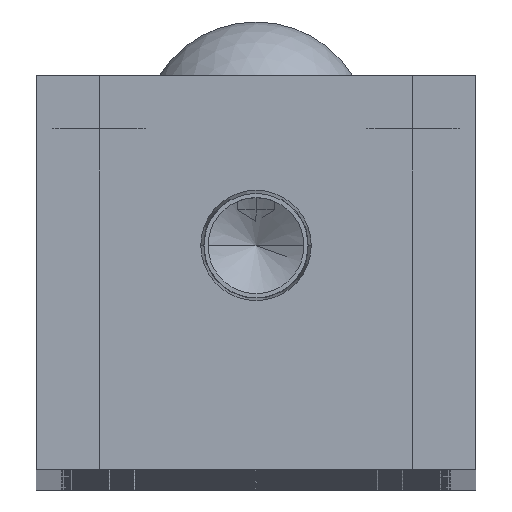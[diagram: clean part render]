
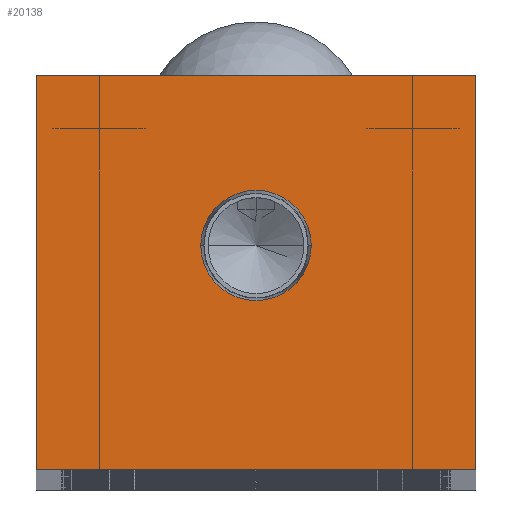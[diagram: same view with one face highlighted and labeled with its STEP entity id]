
A CAD part, top view. The second image highlights one B-rep face of the part: STEP entity #20138.
In plain terms, the highlighted planar face has unit normal (0, 0, 1).
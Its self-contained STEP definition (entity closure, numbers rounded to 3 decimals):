
#310 = CIRCLE ( 'NONE', #12504, 6.154 ) ;
#1810 = CARTESIAN_POINT ( 'NONE',  ( 0., 0., 0. ) ) ;
#1902 = CARTESIAN_POINT ( 'NONE',  ( 6.154, 25., 0. ) ) ;
#2592 = VERTEX_POINT ( 'NONE', #16912 ) ;
#2742 = CARTESIAN_POINT ( 'NONE',  ( 0., 25., 0. ) ) ;
#3303 = LINE ( 'NONE', #18647, #29184 ) ;
#4236 = ORIENTED_EDGE ( 'NONE', *, *, #6042, .F. ) ;
#5312 = DIRECTION ( 'NONE',  ( 1., 0., 0. ) ) ;
#5767 = DIRECTION ( 'NONE',  ( -1., 0., 0. ) ) ;
#6042 = EDGE_CURVE ( 'NONE', #24695, #31736, #28663, .T. ) ;
#6740 = VECTOR ( 'NONE', #5767, 1000. ) ;
#6971 = DIRECTION ( 'NONE',  ( -1., 0., 0. ) ) ;
#8248 = DIRECTION ( 'NONE',  ( 0., -1., 0. ) ) ;
#8429 = DIRECTION ( 'NONE',  ( 1., 0., 0. ) ) ;
#8470 = AXIS2_PLACEMENT_3D ( 'NONE', #2742, #20834, #5312 ) ;
#8788 = CARTESIAN_POINT ( 'NONE',  ( -6.154, 25., 0. ) ) ;
#9705 = EDGE_CURVE ( 'NONE', #31736, #24695, #310, .T. ) ;
#10037 = VECTOR ( 'NONE', #19769, 1000. ) ;
#11984 = LINE ( 'NONE', #29076, #6740 ) ;
#12504 = AXIS2_PLACEMENT_3D ( 'NONE', #30778, #15309, #33397 ) ;
#12615 = ORIENTED_EDGE ( 'NONE', *, *, #17512, .T. ) ;
#13462 = CARTESIAN_POINT ( 'NONE',  ( -24.5, 0., 0. ) ) ;
#14032 = FACE_OUTER_BOUND ( 'NONE', #24639, .T. ) ;
#14512 = ORIENTED_EDGE ( 'NONE', *, *, #28724, .T. ) ;
#14898 = ORIENTED_EDGE ( 'NONE', *, *, #18808, .T. ) ;
#15309 = DIRECTION ( 'NONE',  ( 0., 0., 1. ) ) ;
#16912 = CARTESIAN_POINT ( 'NONE',  ( 24.5, 44., 0. ) ) ;
#17307 = PLANE ( 'NONE',  #28573 ) ;
#17512 = EDGE_CURVE ( 'NONE', #28802, #30622, #31170, .T. ) ;
#17698 = CARTESIAN_POINT ( 'NONE',  ( -24.5, 0., 0. ) ) ;
#18134 = ORIENTED_EDGE ( 'NONE', *, *, #19850, .T. ) ;
#18591 = LINE ( 'NONE', #24862, #10037 ) ;
#18647 = CARTESIAN_POINT ( 'NONE',  ( 24.5, 0., 0. ) ) ;
#18794 = VERTEX_POINT ( 'NONE', #32615 ) ;
#18808 = EDGE_CURVE ( 'NONE', #18794, #2592, #18591, .T. ) ;
#19769 = DIRECTION ( 'NONE',  ( 0., 1., 0. ) ) ;
#19850 = EDGE_CURVE ( 'NONE', #2592, #28802, #11984, .T. ) ;
#20138 = ADVANCED_FACE ( 'NONE', ( #31402, #14032 ), #17307, .F. ) ;
#20834 = DIRECTION ( 'NONE',  ( 0., 0., 1. ) ) ;
#21587 = ORIENTED_EDGE ( 'NONE', *, *, #9705, .F. ) ;
#22534 = DIRECTION ( 'NONE',  ( 0., 0., -1. ) ) ;
#23478 = EDGE_LOOP ( 'NONE', ( #21587, #4236 ) ) ;
#24639 = EDGE_LOOP ( 'NONE', ( #12615, #14512, #14898, #18134 ) ) ;
#24695 = VERTEX_POINT ( 'NONE', #8788 ) ;
#24862 = CARTESIAN_POINT ( 'NONE',  ( 24.5, 44., 0. ) ) ;
#25162 = VECTOR ( 'NONE', #8248, 1000. ) ;
#28573 = AXIS2_PLACEMENT_3D ( 'NONE', #1810, #22534, #6971 ) ;
#28663 = CIRCLE ( 'NONE', #8470, 6.154 ) ;
#28724 = EDGE_CURVE ( 'NONE', #30622, #18794, #3303, .T. ) ;
#28802 = VERTEX_POINT ( 'NONE', #29369 ) ;
#29076 = CARTESIAN_POINT ( 'NONE',  ( -24.5, 44., 0. ) ) ;
#29184 = VECTOR ( 'NONE', #8429, 1000. ) ;
#29369 = CARTESIAN_POINT ( 'NONE',  ( -24.5, 44., 0. ) ) ;
#30622 = VERTEX_POINT ( 'NONE', #17698 ) ;
#30778 = CARTESIAN_POINT ( 'NONE',  ( 0., 25., 0. ) ) ;
#31170 = LINE ( 'NONE', #13462, #25162 ) ;
#31402 = FACE_BOUND ( 'NONE', #23478, .T. ) ;
#31736 = VERTEX_POINT ( 'NONE', #1902 ) ;
#32615 = CARTESIAN_POINT ( 'NONE',  ( 24.5, 0., 0. ) ) ;
#33397 = DIRECTION ( 'NONE',  ( 1., 0., 0. ) ) ;
